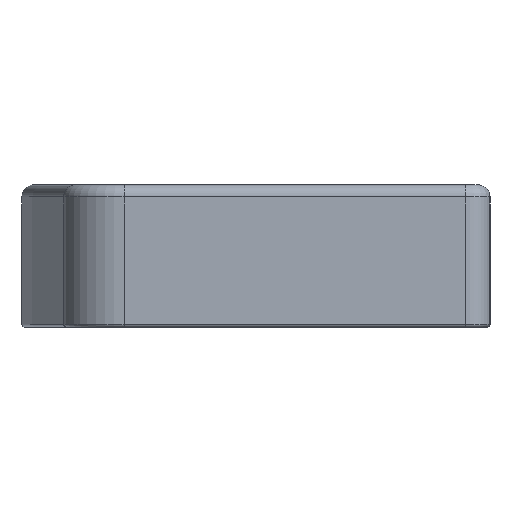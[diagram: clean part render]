
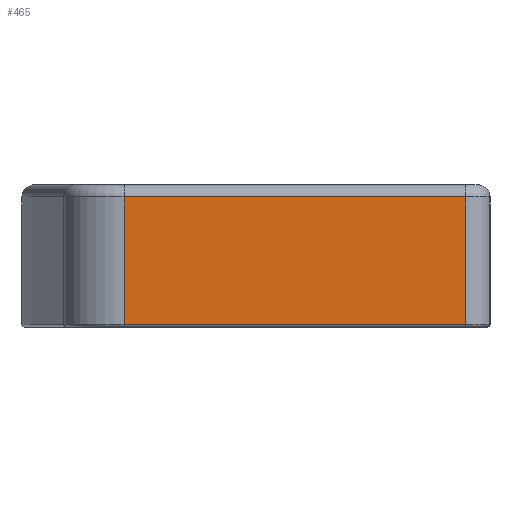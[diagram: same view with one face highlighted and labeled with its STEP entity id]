
A CAD part, left-side view. The second image highlights one B-rep face of the part: STEP entity #465.
In plain terms, the highlighted planar face has unit normal (-1, 0, 0).
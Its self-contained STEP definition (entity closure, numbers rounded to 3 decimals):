
#44 = CYLINDRICAL_SURFACE('',#45,3.252);
#45 = AXIS2_PLACEMENT_3D('',#46,#47,#48);
#46 = CARTESIAN_POINT('',(-96.748,3.252,0.));
#47 = DIRECTION('',(-0.,-0.,-1.));
#48 = DIRECTION('',(-1.,0.,0.));
#137 = EDGE_CURVE('',#138,#140,#142,.T.);
#138 = VERTEX_POINT('',#139);
#139 = CARTESIAN_POINT('',(-100.,3.252,0.407));
#140 = VERTEX_POINT('',#141);
#141 = CARTESIAN_POINT('',(-100.,3.252,17.344));
#142 = SURFACE_CURVE('',#143,(#147,#153),.PCURVE_S1.);
#143 = LINE('',#144,#145);
#144 = CARTESIAN_POINT('',(-100.,3.252,0.));
#145 = VECTOR('',#146,1.);
#146 = DIRECTION('',(0.,0.,1.));
#147 = PCURVE('',#44,#148);
#148 = DEFINITIONAL_REPRESENTATION('',(#149),#152);
#149 = B_SPLINE_CURVE_WITH_KNOTS('',1,(#150,#151),.UNSPECIFIED.,.F.,.F.,
  (2,2),(0.407,17.344),.PIECEWISE_BEZIER_KNOTS.);
#150 = CARTESIAN_POINT('',(0.,-0.407));
#151 = CARTESIAN_POINT('',(0.,-17.344));
#152 = ( GEOMETRIC_REPRESENTATION_CONTEXT(2) 
PARAMETRIC_REPRESENTATION_CONTEXT() REPRESENTATION_CONTEXT('2D SPACE',''
  ) );
#153 = PCURVE('',#154,#159);
#154 = PLANE('',#155);
#155 = AXIS2_PLACEMENT_3D('',#156,#157,#158);
#156 = CARTESIAN_POINT('',(-100.,48.723,0.));
#157 = DIRECTION('',(1.,0.,-0.));
#158 = DIRECTION('',(0.,-1.,0.));
#159 = DEFINITIONAL_REPRESENTATION('',(#160),#164);
#160 = LINE('',#161,#162);
#161 = CARTESIAN_POINT('',(45.471,0.));
#162 = VECTOR('',#163,1.);
#163 = DIRECTION('',(0.,-1.));
#164 = ( GEOMETRIC_REPRESENTATION_CONTEXT(2) 
PARAMETRIC_REPRESENTATION_CONTEXT() REPRESENTATION_CONTEXT('2D SPACE',''
  ) );
#465 = ADVANCED_FACE('',(#466),#154,.F.);
#466 = FACE_BOUND('',#467,.F.);
#467 = EDGE_LOOP('',(#468,#497,#522,#523));
#468 = ORIENTED_EDGE('',*,*,#469,.T.);
#469 = EDGE_CURVE('',#470,#472,#474,.T.);
#470 = VERTEX_POINT('',#471);
#471 = CARTESIAN_POINT('',(-100.,48.723,0.407));
#472 = VERTEX_POINT('',#473);
#473 = CARTESIAN_POINT('',(-100.,48.723,17.344));
#474 = SURFACE_CURVE('',#475,(#479,#486),.PCURVE_S1.);
#475 = LINE('',#476,#477);
#476 = CARTESIAN_POINT('',(-100.,48.723,0.));
#477 = VECTOR('',#478,1.);
#478 = DIRECTION('',(0.,0.,1.));
#479 = PCURVE('',#154,#480);
#480 = DEFINITIONAL_REPRESENTATION('',(#481),#485);
#481 = LINE('',#482,#483);
#482 = CARTESIAN_POINT('',(0.,0.));
#483 = VECTOR('',#484,1.);
#484 = DIRECTION('',(0.,-1.));
#485 = ( GEOMETRIC_REPRESENTATION_CONTEXT(2) 
PARAMETRIC_REPRESENTATION_CONTEXT() REPRESENTATION_CONTEXT('2D SPACE',''
  ) );
#486 = PCURVE('',#487,#492);
#487 = CYLINDRICAL_SURFACE('',#488,8.13);
#488 = AXIS2_PLACEMENT_3D('',#489,#490,#491);
#489 = CARTESIAN_POINT('',(-91.87,48.723,0.));
#490 = DIRECTION('',(-0.,-0.,-1.));
#491 = DIRECTION('',(-0.119,0.993,0.));
#492 = DEFINITIONAL_REPRESENTATION('',(#493),#496);
#493 = B_SPLINE_CURVE_WITH_KNOTS('',1,(#494,#495),.UNSPECIFIED.,.F.,.F.,
  (2,2),(0.407,17.344),.PIECEWISE_BEZIER_KNOTS.);
#494 = CARTESIAN_POINT('',(-1.452,-0.407));
#495 = CARTESIAN_POINT('',(-1.452,-17.344));
#496 = ( GEOMETRIC_REPRESENTATION_CONTEXT(2) 
PARAMETRIC_REPRESENTATION_CONTEXT() REPRESENTATION_CONTEXT('2D SPACE',''
  ) );
#497 = ORIENTED_EDGE('',*,*,#498,.T.);
#498 = EDGE_CURVE('',#472,#140,#499,.T.);
#499 = SURFACE_CURVE('',#500,(#504,#511),.PCURVE_S1.);
#500 = LINE('',#501,#502);
#501 = CARTESIAN_POINT('',(-100.,48.723,17.344));
#502 = VECTOR('',#503,1.);
#503 = DIRECTION('',(0.,-1.,0.));
#504 = PCURVE('',#154,#505);
#505 = DEFINITIONAL_REPRESENTATION('',(#506),#510);
#506 = LINE('',#507,#508);
#507 = CARTESIAN_POINT('',(0.,-17.344));
#508 = VECTOR('',#509,1.);
#509 = DIRECTION('',(1.,0.));
#510 = ( GEOMETRIC_REPRESENTATION_CONTEXT(2) 
PARAMETRIC_REPRESENTATION_CONTEXT() REPRESENTATION_CONTEXT('2D SPACE',''
  ) );
#511 = PCURVE('',#512,#517);
#512 = CYLINDRICAL_SURFACE('',#513,1.626);
#513 = AXIS2_PLACEMENT_3D('',#514,#515,#516);
#514 = CARTESIAN_POINT('',(-98.374,48.723,
    17.344));
#515 = DIRECTION('',(0.,-1.,0.));
#516 = DIRECTION('',(-1.,-0.,0.));
#517 = DEFINITIONAL_REPRESENTATION('',(#518),#521);
#518 = B_SPLINE_CURVE_WITH_KNOTS('',1,(#519,#520),.UNSPECIFIED.,.F.,.F.,
  (2,2),(0.,45.471),.PIECEWISE_BEZIER_KNOTS.);
#519 = CARTESIAN_POINT('',(0.,0.));
#520 = CARTESIAN_POINT('',(0.,45.471));
#521 = ( GEOMETRIC_REPRESENTATION_CONTEXT(2) 
PARAMETRIC_REPRESENTATION_CONTEXT() REPRESENTATION_CONTEXT('2D SPACE',''
  ) );
#522 = ORIENTED_EDGE('',*,*,#137,.F.);
#523 = ORIENTED_EDGE('',*,*,#524,.F.);
#524 = EDGE_CURVE('',#470,#138,#525,.T.);
#525 = SURFACE_CURVE('',#526,(#530,#537),.PCURVE_S1.);
#526 = LINE('',#527,#528);
#527 = CARTESIAN_POINT('',(-100.,48.723,0.407));
#528 = VECTOR('',#529,1.);
#529 = DIRECTION('',(0.,-1.,0.));
#530 = PCURVE('',#154,#531);
#531 = DEFINITIONAL_REPRESENTATION('',(#532),#536);
#532 = LINE('',#533,#534);
#533 = CARTESIAN_POINT('',(0.,-0.407));
#534 = VECTOR('',#535,1.);
#535 = DIRECTION('',(1.,0.));
#536 = ( GEOMETRIC_REPRESENTATION_CONTEXT(2) 
PARAMETRIC_REPRESENTATION_CONTEXT() REPRESENTATION_CONTEXT('2D SPACE',''
  ) );
#537 = PCURVE('',#538,#543);
#538 = CYLINDRICAL_SURFACE('',#539,0.407);
#539 = AXIS2_PLACEMENT_3D('',#540,#541,#542);
#540 = CARTESIAN_POINT('',(-99.593,48.723,
    0.407));
#541 = DIRECTION('',(0.,-1.,0.));
#542 = DIRECTION('',(-1.,-0.,0.));
#543 = DEFINITIONAL_REPRESENTATION('',(#544),#547);
#544 = B_SPLINE_CURVE_WITH_KNOTS('',1,(#545,#546),.UNSPECIFIED.,.F.,.F.,
  (2,2),(0.,45.471),.PIECEWISE_BEZIER_KNOTS.);
#545 = CARTESIAN_POINT('',(0.,0.));
#546 = CARTESIAN_POINT('',(0.,45.471));
#547 = ( GEOMETRIC_REPRESENTATION_CONTEXT(2) 
PARAMETRIC_REPRESENTATION_CONTEXT() REPRESENTATION_CONTEXT('2D SPACE',''
  ) );
